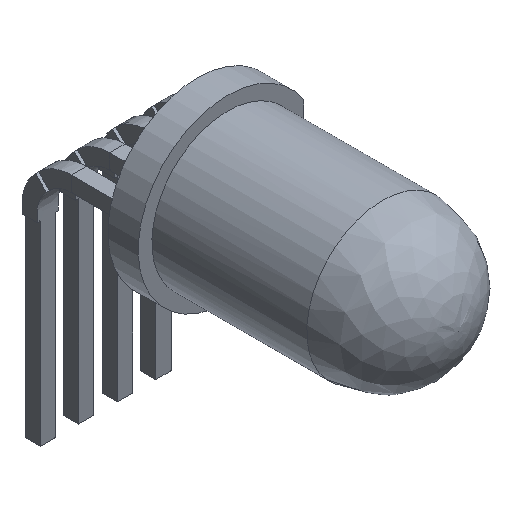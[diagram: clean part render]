
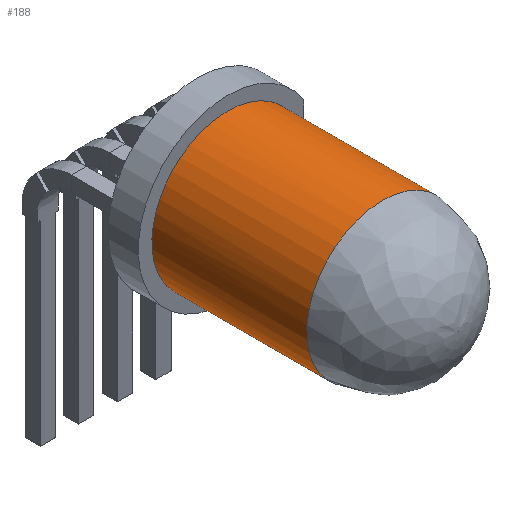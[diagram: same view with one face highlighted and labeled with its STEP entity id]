
A CAD part, isometric view. The second image highlights one B-rep face of the part: STEP entity #188.
In plain terms, the highlighted cylindrical face has radius 2.5 mm (diameter 5 mm), a full revolution.
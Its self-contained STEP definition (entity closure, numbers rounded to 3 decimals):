
#20=CYLINDRICAL_SURFACE('',#1388,2.5);
#35=(
BOUNDED_CURVE()
B_SPLINE_CURVE(2,(#4807,#4808,#4809,#4810,#4811,#4812,#4813),
 .UNSPECIFIED.,.F.,.F.)
B_SPLINE_CURVE_WITH_KNOTS((3,2,2,3),(-15.708,-11.781,
-7.854,-3.927),.UNSPECIFIED.)
CURVE()
GEOMETRIC_REPRESENTATION_ITEM()
RATIONAL_B_SPLINE_CURVE((1.,0.707,1.,0.707,1.,0.707,
1.))
REPRESENTATION_ITEM('')
);
#36=(
BOUNDED_CURVE()
B_SPLINE_CURVE(1,(#4814,#4815),.UNSPECIFIED.,.F.,.F.)
B_SPLINE_CURVE_WITH_KNOTS((2,2),(1.,6.1),.UNSPECIFIED.)
CURVE()
GEOMETRIC_REPRESENTATION_ITEM()
RATIONAL_B_SPLINE_CURVE((1.,1.))
REPRESENTATION_ITEM('')
);
#41=(
BOUNDED_CURVE()
B_SPLINE_CURVE(2,(#4840,#4841,#4842),.UNSPECIFIED.,.F.,.F.)
B_SPLINE_CURVE_WITH_KNOTS((3,3),(-3.927,0.),.UNSPECIFIED.)
CURVE()
GEOMETRIC_REPRESENTATION_ITEM()
RATIONAL_B_SPLINE_CURVE((1.,0.707,1.))
REPRESENTATION_ITEM('')
);
#42=(
BOUNDED_CURVE()
B_SPLINE_CURVE(2,(#4843,#4844,#4845,#4846,#4847,#4848,#4849,#4850,#4851,
#4852,#4853),.UNSPECIFIED.,.T.,.F.)
B_SPLINE_CURVE_WITH_KNOTS((3,2,2,2,2,3),(-15.708,-12.763,
-9.817,-6.872,-3.927,0.),.UNSPECIFIED.)
CURVE()
GEOMETRIC_REPRESENTATION_ITEM()
RATIONAL_B_SPLINE_CURVE((1.,0.831,1.,0.831,1.,0.831,
1.,0.831,1.,0.707,1.))
REPRESENTATION_ITEM('')
);
#188=ADVANCED_FACE('',(#268),#20,.T.);
#268=FACE_OUTER_BOUND('',#352,.T.);
#352=EDGE_LOOP('',(#723,#724,#725,#726,#727));
#723=ORIENTED_EDGE('',*,*,#926,.F.);
#724=ORIENTED_EDGE('',*,*,#934,.F.);
#725=ORIENTED_EDGE('',*,*,#925,.F.);
#726=ORIENTED_EDGE('',*,*,#926,.T.);
#727=ORIENTED_EDGE('',*,*,#935,.T.);
#925=EDGE_CURVE('',#1240,#1245,#35,.T.);
#926=EDGE_CURVE('',#1240,#1239,#36,.T.);
#934=EDGE_CURVE('',#1245,#1240,#41,.T.);
#935=EDGE_CURVE('',#1239,#1239,#42,.T.);
#1239=VERTEX_POINT('',#4773);
#1240=VERTEX_POINT('',#4774);
#1245=VERTEX_POINT('',#4779);
#1388=AXIS2_PLACEMENT_3D('',#4717,#1442,$);
#1442=DIRECTION('',(0.,-1.,0.));
#4717=CARTESIAN_POINT('',(20.,-8.5,5.));
#4773=CARTESIAN_POINT('',(20.,-8.1,2.5));
#4774=CARTESIAN_POINT('',(20.,-3.,2.5));
#4779=CARTESIAN_POINT('',(22.5,-3.,5.));
#4807=CARTESIAN_POINT('',(20.,-3.,2.5));
#4808=CARTESIAN_POINT('',(17.5,-3.,2.5));
#4809=CARTESIAN_POINT('',(17.5,-3.,5.));
#4810=CARTESIAN_POINT('',(17.5,-3.,7.5));
#4811=CARTESIAN_POINT('',(20.,-3.,7.5));
#4812=CARTESIAN_POINT('',(22.5,-3.,7.5));
#4813=CARTESIAN_POINT('',(22.5,-3.,5.));
#4814=CARTESIAN_POINT('',(20.,-3.,2.5));
#4815=CARTESIAN_POINT('',(20.,-8.1,2.5));
#4840=CARTESIAN_POINT('',(22.5,-3.,5.));
#4841=CARTESIAN_POINT('',(22.5,-3.,2.5));
#4842=CARTESIAN_POINT('',(20.,-3.,2.5));
#4843=CARTESIAN_POINT('',(20.,-8.1,2.5));
#4844=CARTESIAN_POINT('',(18.33,-8.1,2.5));
#4845=CARTESIAN_POINT('',(17.69,-8.1,4.043));
#4846=CARTESIAN_POINT('',(17.051,-8.1,5.587));
#4847=CARTESIAN_POINT('',(18.232,-8.1,6.768));
#4848=CARTESIAN_POINT('',(19.413,-8.1,7.949));
#4849=CARTESIAN_POINT('',(20.957,-8.1,7.31));
#4850=CARTESIAN_POINT('',(22.5,-8.1,6.67));
#4851=CARTESIAN_POINT('',(22.5,-8.1,5.));
#4852=CARTESIAN_POINT('',(22.5,-8.1,2.5));
#4853=CARTESIAN_POINT('',(20.,-8.1,2.5));
